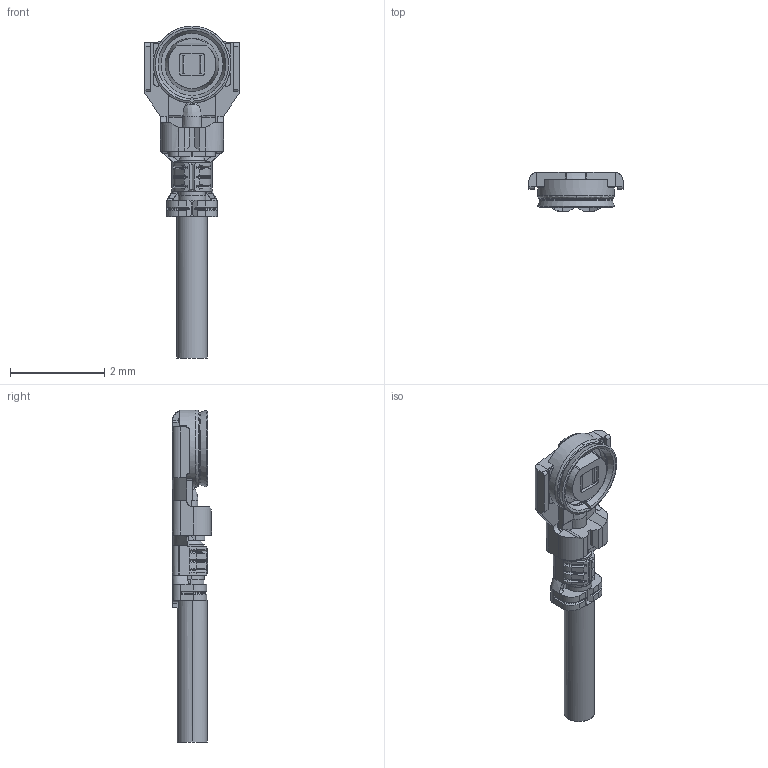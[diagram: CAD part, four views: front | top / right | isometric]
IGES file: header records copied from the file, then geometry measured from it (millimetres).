
Start section: SolidWorks IGES file using analytic representation for surfaces
Global section: file name: C:\3dwork\imaji\00.Web model check\00. New 3D\MHF 5\20567C PLUG(OD 0.64) R11 IGES ALL.IGS; native system: SolidWorks 2017; preprocessor: SolidWorks 2017; author: ipxcad-013; date: 180529.185337; units: millimetre
Bounding box: 2 x 0.83 x 7.06 mm (x, y, z)
Surface area: 29.4 mm2 (no closed solid volume)
Topology: 0 solids, 0 shells, 393 faces, 2520 edges, 2517 vertices
Faces by surface type: bspline 268, revolution 125
